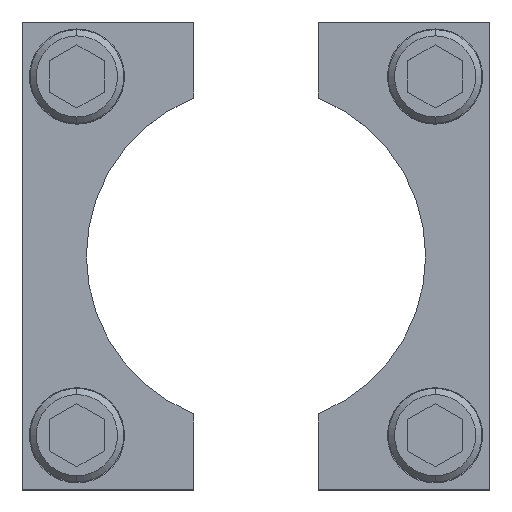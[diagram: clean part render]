
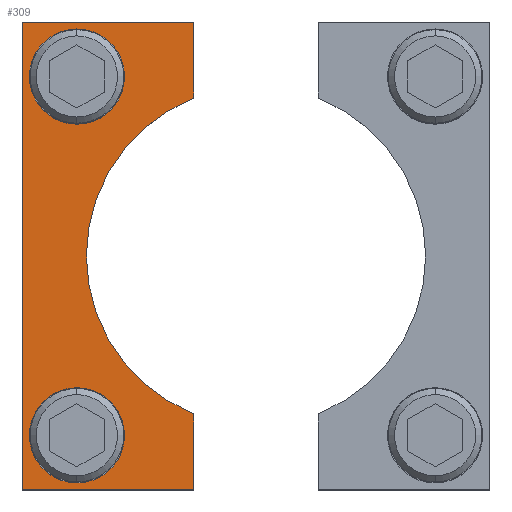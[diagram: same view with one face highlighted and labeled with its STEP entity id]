
A CAD part, top view. The second image highlights one B-rep face of the part: STEP entity #309.
In plain terms, the highlighted planar face has unit normal (0, 0, 1).
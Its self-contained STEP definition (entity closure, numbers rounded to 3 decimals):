
#175=FACE_BOUND('',#645,.T.);
#176=FACE_BOUND('',#646,.T.);
#177=FACE_BOUND('',#647,.T.);
#203=CIRCLE('',#2306,43.5);
#204=CIRCLE('',#2307,9.);
#205=CIRCLE('',#2308,9.);
#206=CIRCLE('',#2309,9.);
#207=CIRCLE('',#2310,9.);
#309=ADVANCED_FACE('',(#175,#176,#177),#445,.T.);
#445=PLANE('',#2311);
#645=EDGE_LOOP('',(#804,#805,#806,#807,#808,#809,#810,#811));
#646=EDGE_LOOP('',(#812,#813));
#647=EDGE_LOOP('',(#814,#815));
#804=ORIENTED_EDGE('',*,*,#1607,.T.);
#805=ORIENTED_EDGE('',*,*,#1608,.T.);
#806=ORIENTED_EDGE('',*,*,#1609,.T.);
#807=ORIENTED_EDGE('',*,*,#1600,.T.);
#808=ORIENTED_EDGE('',*,*,#1605,.T.);
#809=ORIENTED_EDGE('',*,*,#1610,.T.);
#810=ORIENTED_EDGE('',*,*,#1611,.T.);
#811=ORIENTED_EDGE('',*,*,#1612,.T.);
#812=ORIENTED_EDGE('',*,*,#1613,.T.);
#813=ORIENTED_EDGE('',*,*,#1614,.T.);
#814=ORIENTED_EDGE('',*,*,#1615,.T.);
#815=ORIENTED_EDGE('',*,*,#1616,.T.);
#1404=VERTEX_POINT('',#3229);
#1405=VERTEX_POINT('',#3231);
#1409=VERTEX_POINT('',#3240);
#1410=VERTEX_POINT('',#3245);
#1411=VERTEX_POINT('',#3246);
#1412=VERTEX_POINT('',#3248);
#1413=VERTEX_POINT('',#3251);
#1414=VERTEX_POINT('',#3253);
#1415=VERTEX_POINT('',#3256);
#1416=VERTEX_POINT('',#3257);
#1417=VERTEX_POINT('',#3260);
#1418=VERTEX_POINT('',#3261);
#1600=EDGE_CURVE('',#1405,#1404,#1904,.T.);
#1605=EDGE_CURVE('',#1404,#1409,#1909,.T.);
#1607=EDGE_CURVE('',#1410,#1411,#1911,.T.);
#1608=EDGE_CURVE('',#1411,#1412,#203,.T.);
#1609=EDGE_CURVE('',#1412,#1405,#1912,.T.);
#1610=EDGE_CURVE('',#1409,#1413,#1913,.T.);
#1611=EDGE_CURVE('',#1413,#1414,#1914,.T.);
#1612=EDGE_CURVE('',#1414,#1410,#1915,.T.);
#1613=EDGE_CURVE('',#1415,#1416,#204,.T.);
#1614=EDGE_CURVE('',#1416,#1415,#205,.T.);
#1615=EDGE_CURVE('',#1417,#1418,#206,.T.);
#1616=EDGE_CURVE('',#1418,#1417,#207,.T.);
#1904=LINE('',#3230,#2104);
#1909=LINE('',#3241,#2109);
#1911=LINE('',#3244,#2111);
#1912=LINE('',#3249,#2112);
#1913=LINE('',#3250,#2113);
#1914=LINE('',#3252,#2114);
#1915=LINE('',#3254,#2115);
#2104=VECTOR('',#2547,1.);
#2109=VECTOR('',#2554,1.);
#2111=VECTOR('',#2558,1.);
#2112=VECTOR('',#2561,1.);
#2113=VECTOR('',#2562,1.);
#2114=VECTOR('',#2563,1.);
#2115=VECTOR('',#2564,1.);
#2306=AXIS2_PLACEMENT_3D('',#3247,#2559,#2560);
#2307=AXIS2_PLACEMENT_3D('',#3255,#2565,#2566);
#2308=AXIS2_PLACEMENT_3D('',#3258,#2567,#2568);
#2309=AXIS2_PLACEMENT_3D('',#3259,#2569,#2570);
#2310=AXIS2_PLACEMENT_3D('',#3262,#2571,#2572);
#2311=AXIS2_PLACEMENT_3D('',#3263,#2573,#2574);
#2547=DIRECTION('',(0.,1.,0.));
#2554=DIRECTION('',(-1.,0.,0.));
#2558=DIRECTION('',(0.,1.,0.));
#2559=DIRECTION('',(0.,0.,-1.));
#2560=DIRECTION('',(1.,0.,0.));
#2561=DIRECTION('',(0.,1.,0.));
#2562=DIRECTION('',(0.,-1.,0.));
#2563=DIRECTION('',(1.,0.,0.));
#2564=DIRECTION('',(0.,1.,0.));
#2565=DIRECTION('',(0.,0.,-1.));
#2566=DIRECTION('',(-1.,0.,0.));
#2567=DIRECTION('',(0.,0.,-1.));
#2568=DIRECTION('',(1.,0.,0.));
#2569=DIRECTION('',(0.,0.,-1.));
#2570=DIRECTION('',(-1.,0.,0.));
#2571=DIRECTION('',(0.,0.,-1.));
#2572=DIRECTION('',(1.,0.,0.));
#2573=DIRECTION('',(0.,0.,1.));
#2574=DIRECTION('',(0.,1.,0.));
#3229=CARTESIAN_POINT('',(-16.,60.,12.));
#3230=CARTESIAN_POINT('',(-16.,60.,12.));
#3231=CARTESIAN_POINT('',(-16.,44.724,12.));
#3240=CARTESIAN_POINT('',(-60.,60.,12.));
#3241=CARTESIAN_POINT('',(-16.,60.,12.));
#3244=CARTESIAN_POINT('',(-16.,-40.451,12.));
#3245=CARTESIAN_POINT('',(-16.,-44.724,12.));
#3246=CARTESIAN_POINT('',(-16.,-40.451,12.));
#3247=CARTESIAN_POINT('',(0.,0.,12.));
#3248=CARTESIAN_POINT('',(-16.,40.451,12.));
#3249=CARTESIAN_POINT('',(-16.,44.724,12.));
#3250=CARTESIAN_POINT('',(-60.,60.,12.));
#3251=CARTESIAN_POINT('',(-60.,-60.,12.));
#3252=CARTESIAN_POINT('',(-16.,-60.,12.));
#3253=CARTESIAN_POINT('',(-16.,-60.,12.));
#3254=CARTESIAN_POINT('',(-16.,-44.724,12.));
#3255=CARTESIAN_POINT('',(-45.924,-46.,12.));
#3256=CARTESIAN_POINT('',(-45.924,-37.,12.));
#3257=CARTESIAN_POINT('',(-45.924,-55.,12.));
#3258=CARTESIAN_POINT('',(-45.924,-46.,12.));
#3259=CARTESIAN_POINT('',(-45.924,46.,12.));
#3260=CARTESIAN_POINT('',(-45.924,55.,12.));
#3261=CARTESIAN_POINT('',(-45.924,37.,12.));
#3262=CARTESIAN_POINT('',(-45.924,46.,12.));
#3263=CARTESIAN_POINT('',(-16.,-44.724,12.));
